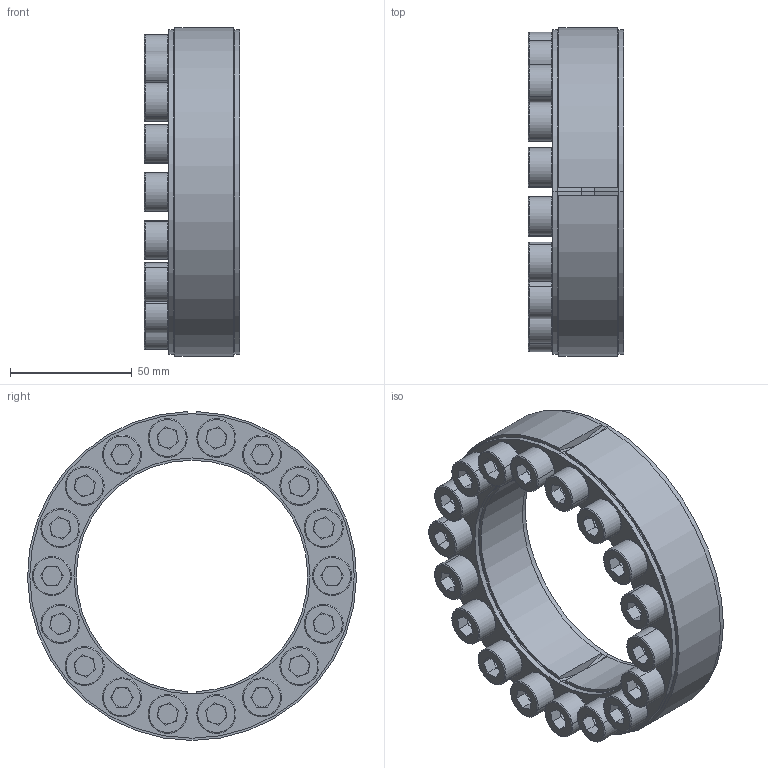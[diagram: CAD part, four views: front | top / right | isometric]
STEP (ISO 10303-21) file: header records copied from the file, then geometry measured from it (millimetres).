
FILE_DESCRIPTION (( 'STEP AP203' ), '1' );
FILE_NAME ('D1-95-135 Assy.STEP', '2017-10-11T07:11:10', ( 'MYCOM' ), ( '' ), 'SwSTEP 2.0', 'SolidWorks 2015', '' );
FILE_SCHEMA (( 'CONFIG_CONTROL_DESIGN' ));
Length unit declared in the file: millimetre
Products named in the file (1): D1-95-135 Assy
Bounding box: 39.2 x 134.99 x 134.98 mm (x, y, z)
Surface area: 76918.2 mm2 (no closed solid volume)
Topology: 0 solids, 40 shells, 452 faces, 1124 edges, 700 vertices
Faces by surface type: plane 250, cylinder 119, torus 72, cone 11
Entity records: 13451 total; most frequent: DIRECTION 2564, CARTESIAN_POINT 2319, ORIENTED_EDGE 2011, EDGE_CURVE 1124, AXIS2_PLACEMENT_3D 995, VERTEX_POINT 700, VECTOR 574, LINE 574
